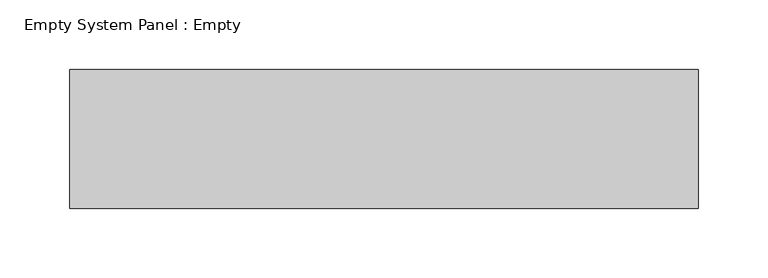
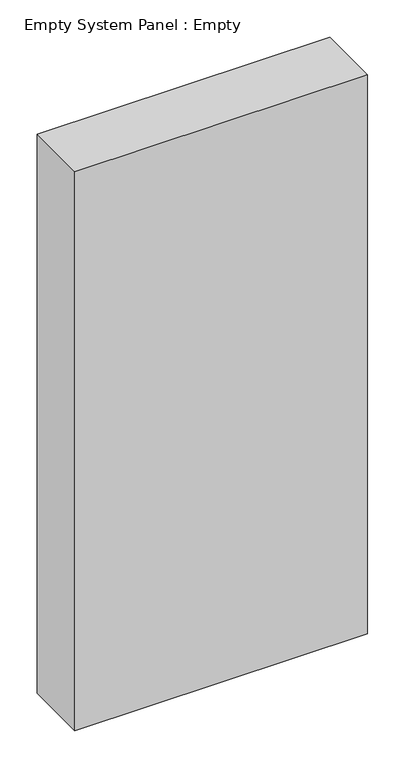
"""IFC4 building model written with IfcOpenShell, lengths in millimetres: plate geometry, Empty System Panel : Empty."""

from ifc_helpers import new_model, si_unit, origin, origin_with_axes, place, context, project, spatial, polyline, outline, extrude, source, transform, mapped, element, save


def empty_system_panel_empty_2622fa27(model_context):
    return source(origin(), model_context, "Body", "SweptSolid", [
        extrude(outline(polyline([(226.25, -50.0), (-226.25, -50.0), (-226.25, 50.0), (226.25, 50.0), (226.25, -50.0)])), origin_with_axes(), (0.0, 0.0, 1.0), 912.5),
    ])


if __name__ == "__main__":
    model = new_model("IFC4")
    model_context = context("Model", 3, world=origin())
    ifc_project = project(units=[si_unit("LENGTHUNIT", "METRE", prefix="MILLI")], contexts=[model_context])
    site = spatial("IfcSite", under=ifc_project)
    building = spatial("IfcBuilding", under=site)
    placement = place(None, origin())
    empty_system_panel_empty_shape = empty_system_panel_empty_2622fa27(model_context)
    element("IfcPlate", 1, ObjectType="Empty System Panel : Empty", at=placement, inside=building, context=model_context, shape_type="MappedRepresentation", body=[
        mapped(empty_system_panel_empty_shape, transform((0.0, 0.0, 0.0), x_axis=(1.0, 0.0, 0.0), y_axis=(0.0, 1.0, 0.0), z_axis=(0.0, 0.0, 1.0))),
    ])
    save(model, "model.ifc")
